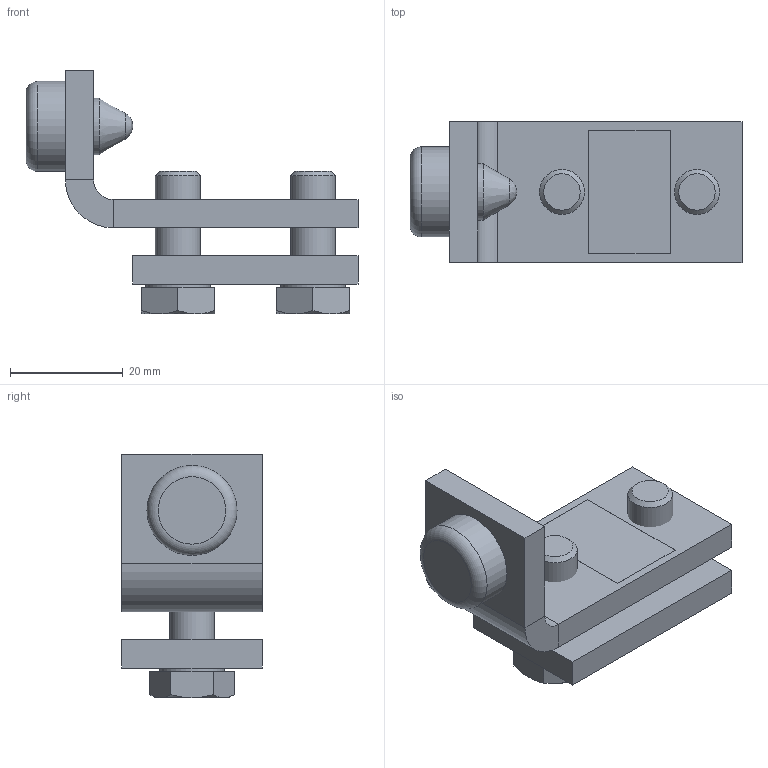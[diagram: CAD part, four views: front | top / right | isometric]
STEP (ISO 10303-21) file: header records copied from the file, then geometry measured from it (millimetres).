
FILE_DESCRIPTION(/* description */ ('Biegeteil mit Gewinde'),/* implementation_level */ '2;1');
FILE_NAME(/* name */ 'Q:\sge-ma\Produktmanagement-STB\STB\Workspace\stp\010336110.stp',/* time_stamp */ '2015-06-01T10:41:36+02:00',/* author */ ('avschreier'),/* organization */ (''),/* preprocessor_version */ 'ST-DEVELOPER v15.6',/* originating_system */ 'Autodesk Inventor 2015',/* authorisation */ '');
FILE_SCHEMA (('CONFIG_CONTROL_DESIGN'));
Length unit declared in the file: millimetre
Products named in the file (5): 337000248; 337000249; 004203030; DIN_EN_ISO_4017-M8x20_en; 010336110
Bounding box: 59 x 25 x 43.3 mm (x, y, z)
Volume: 18238.9 mm3; surface area: 10385.9 mm2
Topology: 5 solids, 5 shells, 83 faces, 172 edges, 106 vertices
Faces by surface type: plane 47, cone 17, cylinder 16, torus 2, bspline 1
Full cylindrical faces by diameter (mm): 6.647 x2, 7.323 x2, 8 x4, 8.5 x2, 10 x1, 11.4 x2, 16 x1
Entity records: 1716 total; most frequent: CARTESIAN_POINT 315, DIRECTION 280, ORIENTED_EDGE 224, EDGE_CURVE 112, AXIS2_PLACEMENT_3D 110, EDGE_LOOP 93, VERTEX_POINT 79, FACE_OUTER_BOUND 62
